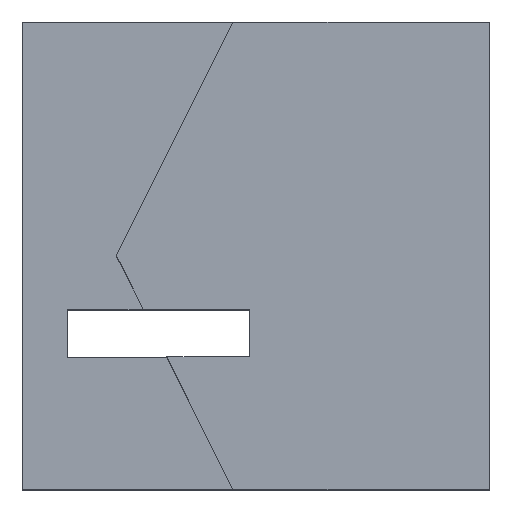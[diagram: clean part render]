
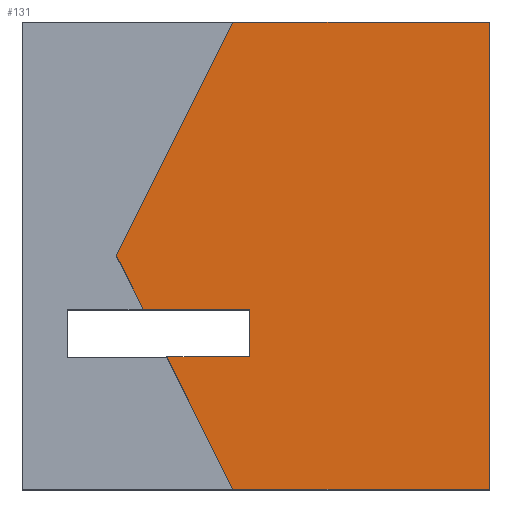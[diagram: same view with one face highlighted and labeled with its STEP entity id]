
A CAD part, top view. The second image highlights one B-rep face of the part: STEP entity #131.
In plain terms, the highlighted planar face has unit normal (0, 0, 1).
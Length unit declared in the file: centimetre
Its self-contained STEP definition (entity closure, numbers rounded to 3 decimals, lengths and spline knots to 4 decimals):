
#1 = CARTESIAN_POINT ( 'NONE',  ( 486.1442, 283.1423, 1000. ) ) ;
#10 = CARTESIAN_POINT ( 'NONE',  ( 96.1573, 385.1844, 1000. ) ) ;
#16 = LINE ( 'NONE', #588, #107 ) ;
#31 = CARTESIAN_POINT ( 'NONE',  ( 1000., 0., 1000. ) ) ;
#41 = VECTOR ( 'NONE', #202, 100. ) ;
#49 = LINE ( 'NONE', #339, #278 ) ;
#55 = LINE ( 'NONE', #10, #120 ) ;
#60 = CARTESIAN_POINT ( 'NONE',  ( 201.3643, 500., 1000. ) ) ;
#77 = DIRECTION ( 'NONE',  ( -1., 0., 0. ) ) ;
#84 = CARTESIAN_POINT ( 'NONE',  ( 0., 0., 1000. ) ) ;
#88 = VERTEX_POINT ( 'NONE', #180 ) ;
#91 = VERTEX_POINT ( 'NONE', #31 ) ;
#107 = VECTOR ( 'NONE', #165, 100. ) ;
#113 = EDGE_CURVE ( 'NONE', #422, #373, #565, .T. ) ;
#120 = VECTOR ( 'NONE', #455, 100. ) ;
#130 = DIRECTION ( 'NONE',  ( 0., 0., 1. ) ) ;
#131 = ADVANCED_FACE ( 'NONE', ( #182 ), #428, .T. ) ;
#154 = CARTESIAN_POINT ( 'NONE',  ( 450.031, 1000., 1000. ) ) ;
#165 = DIRECTION ( 'NONE',  ( -0.445, 0.895, 0. ) ) ;
#174 = VERTEX_POINT ( 'NONE', #520 ) ;
#180 = CARTESIAN_POINT ( 'NONE',  ( 486.1442, 385.1844, 1000. ) ) ;
#182 = FACE_OUTER_BOUND ( 'NONE', #410, .T. ) ;
#198 = LINE ( 'NONE', #298, #265 ) ;
#199 = VERTEX_POINT ( 'NONE', #1 ) ;
#201 = EDGE_CURVE ( 'NONE', #91, #422, #49, .T. ) ;
#202 = DIRECTION ( 'NONE',  ( 0.445, 0.895, 0. ) ) ;
#207 = EDGE_CURVE ( 'NONE', #340, #373, #446, .T. ) ;
#222 = CARTESIAN_POINT ( 'NONE',  ( 96.1573, 283.1423, 1000. ) ) ;
#228 = DIRECTION ( 'NONE',  ( -1., 0., 0. ) ) ;
#229 = CARTESIAN_POINT ( 'NONE',  ( 0., 1000., 1000. ) ) ;
#231 = AXIS2_PLACEMENT_3D ( 'NONE', #84, #130, #561 ) ;
#237 = ORIENTED_EDGE ( 'NONE', *, *, #207, .F. ) ;
#255 = VERTEX_POINT ( 'NONE', #577 ) ;
#262 = CARTESIAN_POINT ( 'NONE',  ( 258.4659, 385.1844, 1000. ) ) ;
#264 = VECTOR ( 'NONE', #228, 100. ) ;
#265 = VECTOR ( 'NONE', #392, 100. ) ;
#266 = ORIENTED_EDGE ( 'NONE', *, *, #113, .T. ) ;
#278 = VECTOR ( 'NONE', #570, 100. ) ;
#295 = EDGE_CURVE ( 'NONE', #255, #91, #198, .T. ) ;
#298 = CARTESIAN_POINT ( 'NONE',  ( 0., 0., 1000. ) ) ;
#314 = ORIENTED_EDGE ( 'NONE', *, *, #356, .F. ) ;
#318 = ORIENTED_EDGE ( 'NONE', *, *, #201, .T. ) ;
#335 = VECTOR ( 'NONE', #545, 100. ) ;
#339 = CARTESIAN_POINT ( 'NONE',  ( 1000., 1000., 1000. ) ) ;
#340 = VERTEX_POINT ( 'NONE', #456 ) ;
#342 = CARTESIAN_POINT ( 'NONE',  ( 450.031, 1000., 1000. ) ) ;
#355 = CARTESIAN_POINT ( 'NONE',  ( 486.1442, 283.1423, 1000. ) ) ;
#356 = EDGE_CURVE ( 'NONE', #255, #174, #16, .T. ) ;
#362 = ORIENTED_EDGE ( 'NONE', *, *, #586, .T. ) ;
#373 = VERTEX_POINT ( 'NONE', #154 ) ;
#392 = DIRECTION ( 'NONE',  ( 1., 0., 0. ) ) ;
#410 = EDGE_LOOP ( 'NONE', ( #314, #556, #318, #266, #237, #495, #362, #605, #530 ) ) ;
#412 = LINE ( 'NONE', #355, #476 ) ;
#422 = VERTEX_POINT ( 'NONE', #554 ) ;
#428 = PLANE ( 'NONE',  #231 ) ;
#432 = VERTEX_POINT ( 'NONE', #262 ) ;
#446 = LINE ( 'NONE', #342, #41 ) ;
#454 = EDGE_CURVE ( 'NONE', #88, #199, #412, .T. ) ;
#455 = DIRECTION ( 'NONE',  ( 1., 0., 0. ) ) ;
#456 = CARTESIAN_POINT ( 'NONE',  ( 201.3643, 500., 1000. ) ) ;
#458 = LINE ( 'NONE', #60, #335 ) ;
#468 = VECTOR ( 'NONE', #77, 100. ) ;
#476 = VECTOR ( 'NONE', #544, 100. ) ;
#495 = ORIENTED_EDGE ( 'NONE', *, *, #563, .F. ) ;
#520 = CARTESIAN_POINT ( 'NONE',  ( 309.2149, 283.1423, 1000. ) ) ;
#522 = LINE ( 'NONE', #222, #468 ) ;
#530 = ORIENTED_EDGE ( 'NONE', *, *, #599, .T. ) ;
#544 = DIRECTION ( 'NONE',  ( 0., -1., 0. ) ) ;
#545 = DIRECTION ( 'NONE',  ( -0.445, 0.895, 0. ) ) ;
#554 = CARTESIAN_POINT ( 'NONE',  ( 1000., 1000., 1000. ) ) ;
#556 = ORIENTED_EDGE ( 'NONE', *, *, #295, .T. ) ;
#561 = DIRECTION ( 'NONE',  ( 1., 0., 0. ) ) ;
#563 = EDGE_CURVE ( 'NONE', #432, #340, #458, .T. ) ;
#565 = LINE ( 'NONE', #229, #264 ) ;
#570 = DIRECTION ( 'NONE',  ( 0., 1., 0. ) ) ;
#577 = CARTESIAN_POINT ( 'NONE',  ( 450.031, 0., 1000. ) ) ;
#586 = EDGE_CURVE ( 'NONE', #432, #88, #55, .T. ) ;
#588 = CARTESIAN_POINT ( 'NONE',  ( 201.3643, 500., 1000. ) ) ;
#599 = EDGE_CURVE ( 'NONE', #199, #174, #522, .T. ) ;
#605 = ORIENTED_EDGE ( 'NONE', *, *, #454, .T. ) ;
